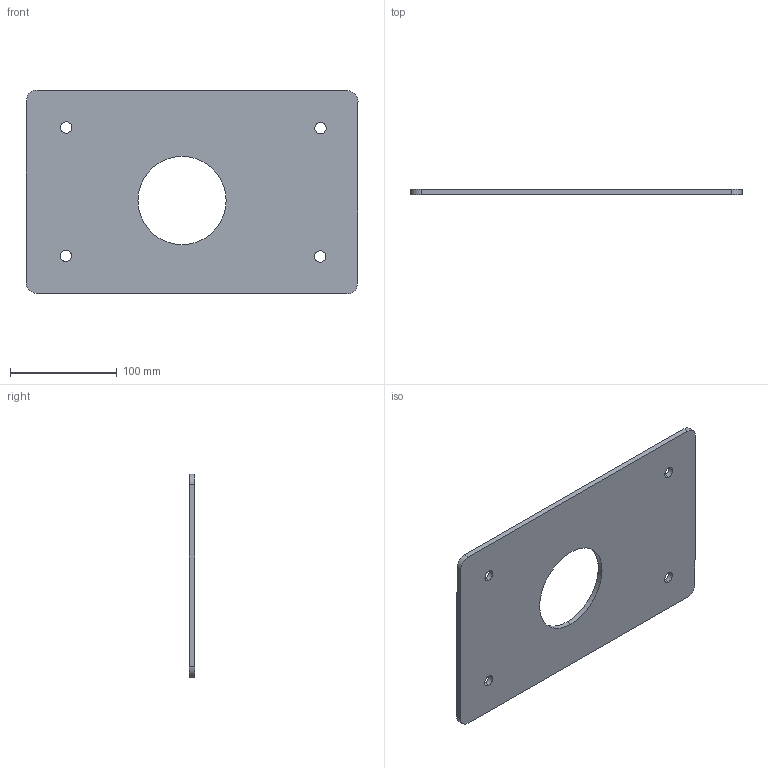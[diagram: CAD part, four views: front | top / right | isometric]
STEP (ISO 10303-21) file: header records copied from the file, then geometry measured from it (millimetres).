
FILE_DESCRIPTION (( 'STEP AP214' ), '1' );
FILE_NAME ('P-087-026-rev-A.STEP', '2024-01-06T12:35:38', ( '' ), ( '' ), 'SwSTEP 2.0', 'SolidWorks 2023', '' );
FILE_SCHEMA (( 'AUTOMOTIVE_DESIGN' ));
Length unit declared in the file: millimetre
Products named in the file (1): P-087-026-rev-A
Bounding box: 310.42 x 5 x 190.72 mm (x, y, z)
Volume: 265610.9 mm3; surface area: 113114.2 mm2
Topology: 1 solids, 1 shells, 21 faces, 57 edges, 38 vertices
Faces by surface type: cylinder 15, plane 6
Entity records: 724 total; most frequent: DIRECTION 131, CARTESIAN_POINT 117, ORIENTED_EDGE 114, EDGE_CURVE 57, AXIS2_PLACEMENT_3D 52, VERTEX_POINT 38, EDGE_LOOP 31, CIRCLE 30
